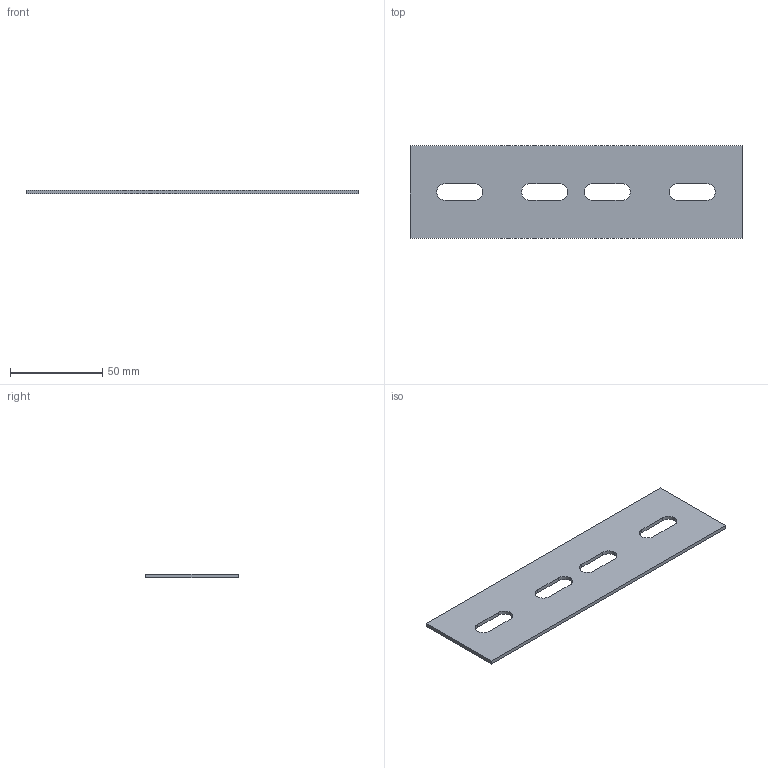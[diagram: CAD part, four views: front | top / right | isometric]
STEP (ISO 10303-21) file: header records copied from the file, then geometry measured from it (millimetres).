
FILE_DESCRIPTION (( 'STEP AP214' ), '1' );
FILE_NAME ('JUFE 60-75.STEP', '2023-06-28T13:43:26', ( '' ), ( '' ), 'SwSTEP 2.0', 'SolidWorks 2022', '' );
FILE_SCHEMA (( 'AUTOMOTIVE_DESIGN' ));
Length unit declared in the file: millimetre
Products named in the file (1): JUFE 60-75
Bounding box: 180 x 50 x 2 mm (x, y, z)
Volume: 16339.1 mm3; surface area: 17741.3 mm2
Topology: 1 solids, 1 shells, 26 faces, 72 edges, 48 vertices
Faces by surface type: plane 14, cylinder 12
Entity records: 890 total; most frequent: DIRECTION 150, CARTESIAN_POINT 147, ORIENTED_EDGE 144, EDGE_CURVE 72, AXIS2_PLACEMENT_3D 51, LINE 48, VERTEX_POINT 48, VECTOR 48
